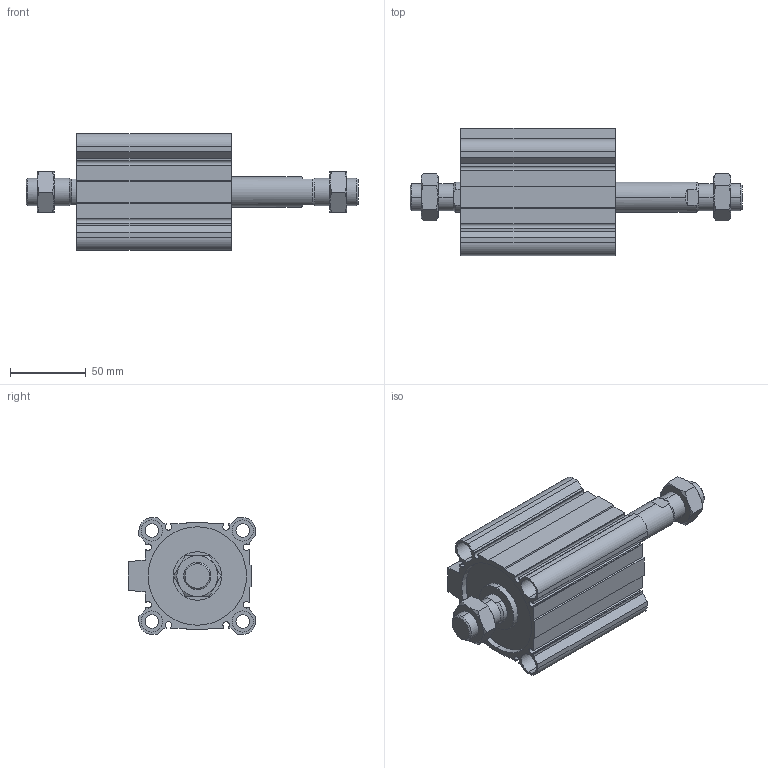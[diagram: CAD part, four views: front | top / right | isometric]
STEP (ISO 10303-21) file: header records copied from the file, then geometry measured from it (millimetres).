
FILE_DESCRIPTION (( 'STEP AP203' ), '1' );
FILE_NAME ('CCMB63-50M-P.STEP', '2020-08-10T11:51:36', ( '' ), ( '' ), 'SwSTEP 2.0', 'SolidWorks 2019', '' );
FILE_SCHEMA (( 'CONFIG_CONTROL_DESIGN' ));
Length unit declared in the file: millimetre
Products named in the file (1): CCMB63-50M-P
Bounding box: 219 x 84 x 77 mm (x, y, z)
Volume: 378250.3 mm3; surface area: 117423.5 mm2
Topology: 4 solids, 4 shells, 232 faces, 570 edges, 364 vertices
Faces by surface type: plane 110, cylinder 78, cone 44
Entity records: 7569 total; most frequent: CARTESIAN_POINT 1939, DIRECTION 1176, ORIENTED_EDGE 1140, EDGE_CURVE 570, AXIS2_PLACEMENT_3D 437, VERTEX_POINT 364, LINE 302, VECTOR 302
